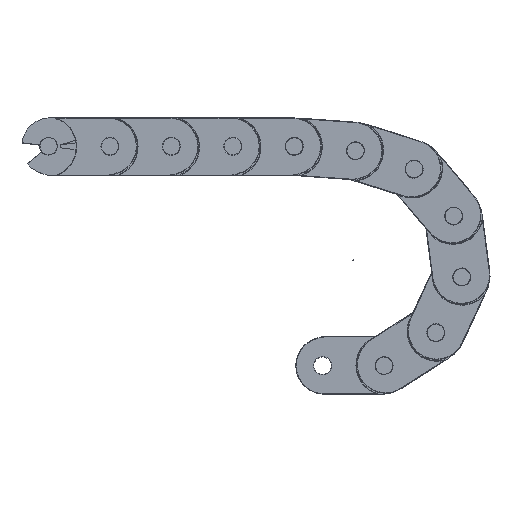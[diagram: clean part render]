
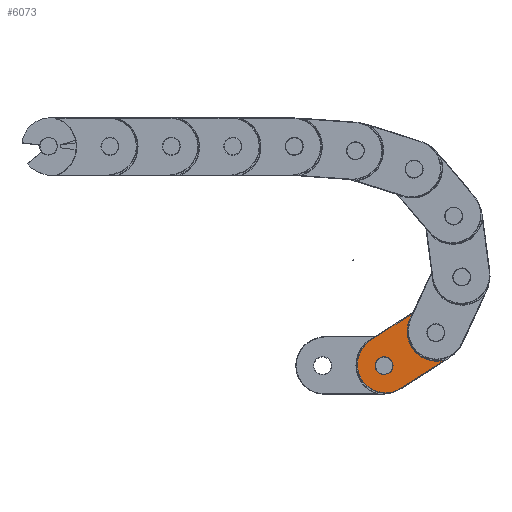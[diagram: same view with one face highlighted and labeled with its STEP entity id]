
A CAD part, left-side view. The second image highlights one B-rep face of the part: STEP entity #6073.
In plain terms, the highlighted planar face has unit normal (-1, 0, 0) as drawn and (0, 0, -1) by its records, which use the part's own axes.
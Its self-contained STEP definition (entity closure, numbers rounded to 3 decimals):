
#5555=CARTESIAN_POINT('',(105.249,139.968,110.528));
#5556=VERTEX_POINT('',#5555);
#5584=CARTESIAN_POINT('',(128.833,172.468,110.528));
#5585=VERTEX_POINT('',#5584);
#5601=CARTESIAN_POINT('',(95.337,171.968,110.528));
#5602=DIRECTION('',(0.,0.,-1.));
#5603=DIRECTION('',(0.809,-0.587,0.));
#5604=AXIS2_PLACEMENT_3D('',#5601,#5602,#5603);
#5605=CIRCLE('',#5604,33.5);
#5606=EDGE_CURVE('',#5585,#5556,#5605,.T.);
#5616=CARTESIAN_POINT('',(114.841,200.205,110.528));
#5617=VERTEX_POINT('',#5616);
#5618=CARTESIAN_POINT('',(95.337,172.968,110.528));
#5619=DIRECTION('',(0.,0.,-1.0));
#5620=DIRECTION('',(0.893,0.45,0.));
#5621=AXIS2_PLACEMENT_3D('',#5618,#5619,#5620);
#5622=CIRCLE('',#5621,33.5);
#5623=EDGE_CURVE('',#5617,#5585,#5622,.T.);
#5669=CARTESIAN_POINT('',(107.835,204.668,110.528));
#5670=VERTEX_POINT('',#5669);
#5678=CARTESIAN_POINT('',(107.835,204.668,110.528));
#5679=DIRECTION('',(0.843,-0.537,0.));
#5680=VECTOR('',#5679,8.308);
#5681=LINE('',#5678,#5680);
#5682=EDGE_CURVE('',#5670,#5617,#5681,.T.);
#5699=CARTESIAN_POINT('',(173.507,202.771,110.528));
#5700=VERTEX_POINT('',#5699);
#5735=CARTESIAN_POINT('',(164.837,139.968,110.528));
#5736=VERTEX_POINT('',#5735);
#5744=CARTESIAN_POINT('',(164.837,171.968,110.528));
#5745=DIRECTION('',(0.,0.,1.0));
#5746=DIRECTION('',(0.991,-0.137,0.));
#5747=AXIS2_PLACEMENT_3D('',#5744,#5745,#5746);
#5748=CIRCLE('',#5747,32.);
#5749=EDGE_CURVE('',#5736,#5700,#5748,.T.);
#5759=CARTESIAN_POINT('',(168.03,204.313,110.528));
#5760=VERTEX_POINT('',#5759);
#5777=CARTESIAN_POINT('',(173.507,202.771,110.528));
#5778=DIRECTION('',(-0.963,0.271,0.0));
#5779=VECTOR('',#5778,5.69);
#5780=LINE('',#5777,#5779);
#5781=EDGE_CURVE('',#5700,#5760,#5780,.T.);
#5798=CARTESIAN_POINT('',(105.249,139.968,110.528));
#5799=DIRECTION('',(1.0,0.0,0.0));
#5800=VECTOR('',#5799,59.588);
#5801=LINE('',#5798,#5800);
#5802=EDGE_CURVE('',#5556,#5736,#5801,.T.);
#5814=CARTESIAN_POINT('',(165.456,204.668,110.528));
#5815=VERTEX_POINT('',#5814);
#5831=CARTESIAN_POINT('',(165.456,195.168,110.528));
#5832=DIRECTION('',(0.,0.,1.));
#5833=DIRECTION('',(0.137,0.991,0.));
#5834=AXIS2_PLACEMENT_3D('',#5831,#5832,#5833);
#5835=CIRCLE('',#5834,9.5);
#5836=EDGE_CURVE('',#5760,#5815,#5835,.T.);
#5855=CARTESIAN_POINT('',(165.456,204.668,110.528));
#5856=DIRECTION('',(-1.0,0.0,0.0));
#5857=VECTOR('',#5856,57.621);
#5858=LINE('',#5855,#5857);
#5859=EDGE_CURVE('',#5815,#5670,#5858,.T.);
#6047=CARTESIAN_POINT('',(128.779,172.346,110.528));
#6048=DIRECTION('',(0.0,0.0,1.0));
#6049=DIRECTION('',(1.0,0.0,0.0));
#6050=AXIS2_PLACEMENT_3D('',#6047,#6048,#6049);
#6051=PLANE('',#6050);
#6052=ORIENTED_EDGE('',*,*,#5749,.F.);
#6053=ORIENTED_EDGE('',*,*,#5802,.F.);
#6054=ORIENTED_EDGE('',*,*,#5606,.F.);
#6055=ORIENTED_EDGE('',*,*,#5623,.F.);
#6056=ORIENTED_EDGE('',*,*,#5682,.F.);
#6057=ORIENTED_EDGE('',*,*,#5859,.F.);
#6058=ORIENTED_EDGE('',*,*,#5836,.F.);
#6059=ORIENTED_EDGE('',*,*,#5781,.F.);
#6060=EDGE_LOOP('',(#6052,#6053,#6054,#6055,#6056,#6057,#6058,#6059));
#6061=FACE_OUTER_BOUND('',#6060,.T.);
#6062=CARTESIAN_POINT('',(177.087,171.968,110.528));
#6063=VERTEX_POINT('',#6062);
#6064=CARTESIAN_POINT('',(166.837,171.968,110.528));
#6065=DIRECTION('',(0.0,0.0,-1.0));
#6066=DIRECTION('',(-1.0,0.0,0.0));
#6067=AXIS2_PLACEMENT_3D('',#6064,#6065,#6066);
#6068=CIRCLE('',#6067,10.25);
#6069=EDGE_CURVE('',#6063,#6063,#6068,.T.);
#6070=ORIENTED_EDGE('',*,*,#6069,.F.);
#6071=EDGE_LOOP('',(#6070));
#6072=FACE_BOUND('',#6071,.T.);
#6073=ADVANCED_FACE('',(#6061,#6072),#6051,.F.);
